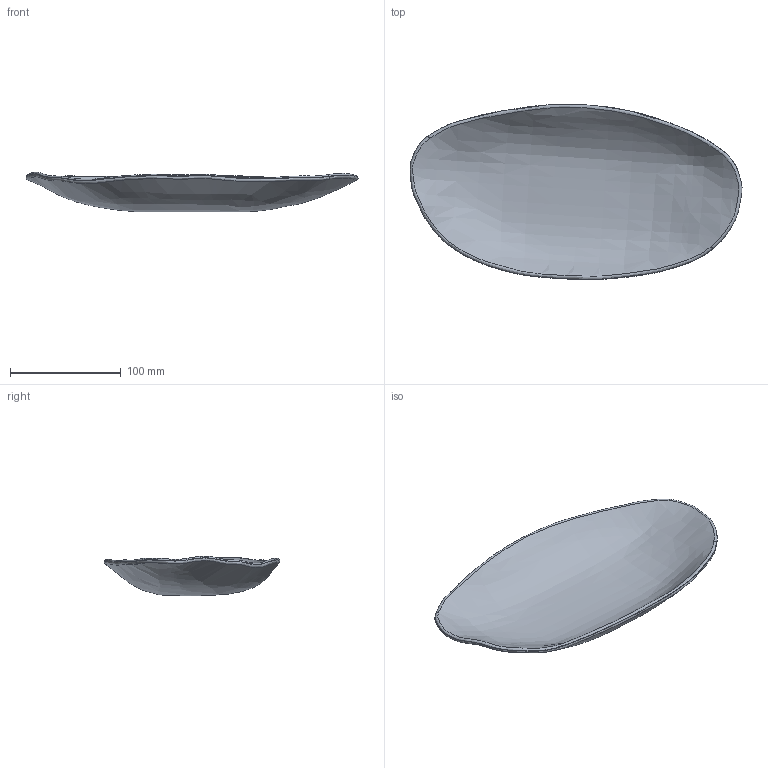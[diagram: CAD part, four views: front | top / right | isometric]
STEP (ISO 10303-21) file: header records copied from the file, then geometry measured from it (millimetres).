
FILE_DESCRIPTION(/* description */ (''),/* implementation_level */ '2;1');
FILE_NAME(/* name */ 'Native Oval Tray Medio',/* time_stamp */ '2024-05-22T16:58:18+02:00',/* author */ (''),/* organization */ (''),/* preprocessor_version */ 'ST-DEVELOPER v16.5',/* originating_system */ 'Rhino 7.37',/* authorisation */ '');
FILE_SCHEMA (('CONFIG_CONTROL_DESIGN'));
Length unit declared in the file: millimetre
Products named in the file (1): Document
Bounding box: 299.37 x 158.39 x 35.84 mm (x, y, z)
Volume: 180833.5 mm3; surface area: 86974.6 mm2
Topology: 1 solids, 1 shells, 8 faces, 14 edges, 8 vertices
Faces by surface type: bspline 8
Entity records: 19293 total; most frequent: CARTESIAN_POINT 19023, B_SPLINE_CURVE_WITH_KNOTS 30, ORIENTED_EDGE 28, PCURVE 28, DEFINITIONAL_REPRESENTATION 28, SURFACE_CURVE 14, EDGE_CURVE 14, ADVANCED_FACE 8
